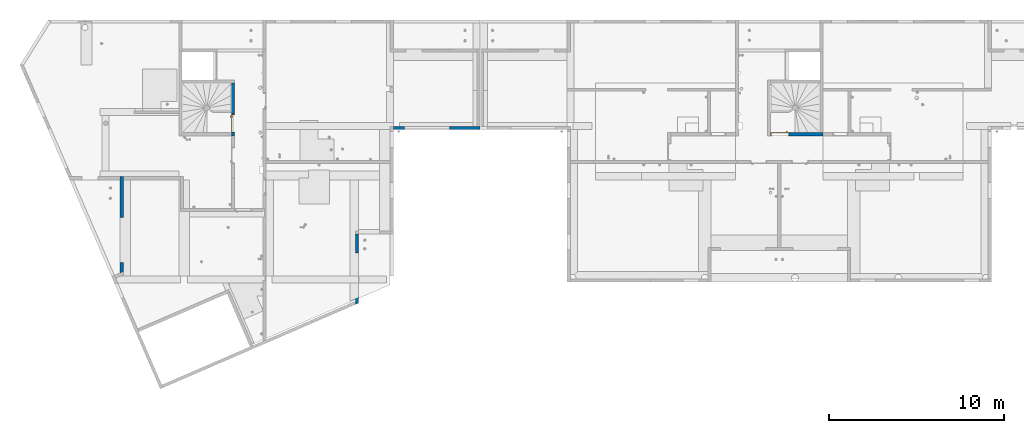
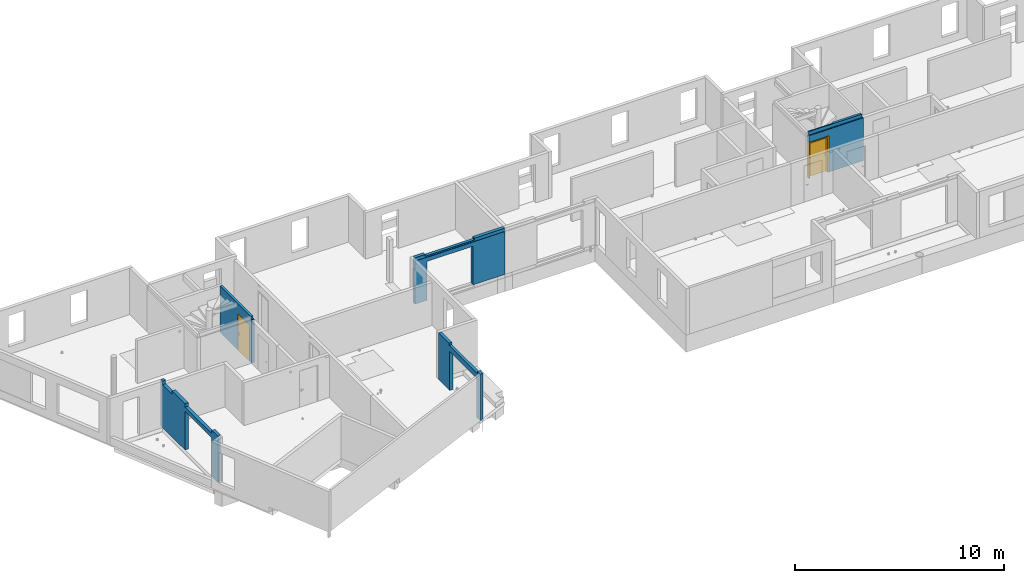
# One storey, part 25 of 34: 5 walls, 2 doors, 2 openings.
"""IFC2X3 building model written with IfcOpenShell, lengths in centimetres."""

from ifc_helpers import new_model, entity, si_unit, converted_unit, derived_unit, direction, frame, frame_2d, origin, place, context, subcontext, project, spatial, rectangle, extrude, faceted_brep, source, transform, mapped, material, material_list, layer, layer_set, type_object, type_shapes, element, fill, save


model = new_model("IFC2X3")

# Units and contexts
model_context = context("Model", 3, precision=0.001, world=origin(), true_north=direction((6.12303176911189e-17, 1.0)))
body_context = subcontext(model_context, "Body", "Model", "MODEL_VIEW")
ifc_project = project(units=[si_unit("LENGTHUNIT", "METRE", prefix="CENTI"), si_unit("AREAUNIT", "SQUARE_METRE"), si_unit("VOLUMEUNIT", "CUBIC_METRE"), converted_unit("PLANEANGLEUNIT", "DEGREE", entity("IfcRatioMeasure", 0.0174532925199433), si_unit("PLANEANGLEUNIT", "RADIAN"), dimensions=[0, 0, 0, 0, 0, 0, 0]), si_unit("MASSUNIT", "GRAM", prefix="KILO"), derived_unit("MASSDENSITYUNIT", [(si_unit("MASSUNIT", "GRAM", prefix="KILO"), 1), (si_unit("LENGTHUNIT", "METRE"), -3)]), si_unit("TIMEUNIT", "SECOND"), si_unit("FREQUENCYUNIT", "HERTZ"), si_unit("THERMODYNAMICTEMPERATUREUNIT", "DEGREE_CELSIUS"), derived_unit("THERMALTRANSMITTANCEUNIT", [(si_unit("MASSUNIT", "GRAM", prefix="KILO"), 1), (si_unit("THERMODYNAMICTEMPERATUREUNIT", "KELVIN"), -1), (si_unit("TIMEUNIT", "SECOND"), -3)]), derived_unit("VOLUMETRICFLOWRATEUNIT", [(si_unit("LENGTHUNIT", "METRE"), 3), (si_unit("TIMEUNIT", "SECOND"), -1)]), si_unit("ELECTRICCURRENTUNIT", "AMPERE"), si_unit("ELECTRICVOLTAGEUNIT", "VOLT"), si_unit("POWERUNIT", "WATT"), si_unit("FORCEUNIT", "NEWTON"), si_unit("ILLUMINANCEUNIT", "LUX"), si_unit("LUMINOUSFLUXUNIT", "LUMEN"), si_unit("LUMINOUSINTENSITYUNIT", "CANDELA"), derived_unit("USERDEFINED", [(si_unit("MASSUNIT", "GRAM", prefix="KILO"), -1), (si_unit("LENGTHUNIT", "METRE"), -2), (si_unit("TIMEUNIT", "SECOND"), 3), (si_unit("LUMINOUSFLUXUNIT", "LUMEN"), 1)]), derived_unit("LINEARVELOCITYUNIT", [(si_unit("LENGTHUNIT", "METRE"), 1), (si_unit("TIMEUNIT", "SECOND"), -1)]), si_unit("PRESSUREUNIT", "PASCAL"), derived_unit("USERDEFINED", [(si_unit("LENGTHUNIT", "METRE"), -2), (si_unit("MASSUNIT", "GRAM", prefix="KILO"), 1), (si_unit("TIMEUNIT", "SECOND"), -2)])], contexts=[model_context])

# Site, building, storey
site_placement = place(None, origin())
site = spatial("IfcSite", under=ifc_project, at=site_placement, Name="Default", CompositionType="ELEMENT")
building_placement = place(site_placement, origin())
building = spatial("IfcBuilding", under=site, at=building_placement, Name="CAGE 03", CompositionType="ELEMENT")
storey_placement = place(building_placement, frame((0.0, 0.0, 340.0)))
storey = spatial("IfcBuildingStorey", under=building, at=storey_placement, Name="R+1", CompositionType="ELEMENT", Elevation=340.0)

# Walls
ifc_material_1 = material(Name="Béton, C25/30")
ifc_layer = layer(ifc_material_1, 18.0)
ifc_layer_set = layer_set([ifc_layer], Name="Mur de base:Voile BA 18")
wall_type_1 = type_object("IfcWallType", Name="Mur de base:Voile BA 18", PredefinedType="STANDARD", material=ifc_layer_set)
wall_1_placement = place(storey_placement, frame((3327.86582014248, 3849.93428297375, 0.0), z_axis=(0.0, 0.0, 1.0), x_axis=(0.0, 1.0, 0.0)))
element("IfcWall", 1, at=wall_1_placement, inside=storey, type_object=wall_type_1, Name="Mur de base:Voile BA 18", ObjectType="Mur de base:Voile BA 18", context=body_context, shape_type="Brep", body=[
    faceted_brep([(549.72638310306, -9.0, 0.0), (549.72638310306, -9.0, 250.0), (549.72638310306, -9.0, 270.0), (531.726383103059, -9.0, 270.0), (531.726383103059, -9.0, 250.0), (440.726383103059, -9.0, 250.0), (440.726383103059, -9.0, 270.0), (315.72638310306, -9.0, 270.0), (315.72638310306, -9.0, 250.0), (60.7263831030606, -9.0, 250.0), (60.7263831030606, -9.0, 270.0), (7.78832528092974, -9.0, 270.0), (7.78832528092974, -9.0, 250.0), (7.78832528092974, -9.0, 0.0), (60.7263831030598, -9.0, 0.0), (60.7263831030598, -9.0, 226.0), (315.72638310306, -9.0, 226.0), (315.72638310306, -9.0, 0.0), (531.72638310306, -9.0, 0.0), (549.72638310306, 9.0, 270.0), (549.72638310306, 9.0, 250.0), (549.72638310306, 9.0, 0.0), (531.72638310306, 9.0, 0.0), (315.726383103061, 9.0, 0.0), (315.72638310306, 9.0, 226.0), (60.7263831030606, 9.0, 226.0), (60.7263831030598, 9.0, 0.0), (0.0, 9.0, 0.0), (0.0, 9.0, 250.0), (0.0, 9.0, 269.609958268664), (0.0, 9.0, 270.0), (60.7263831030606, 9.0, 270.0), (60.7263831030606, 9.0, 269.609958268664), (60.7263831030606, 9.0, 265.0), (60.7263831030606, 9.0, 250.0), (315.72638310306, 9.0, 250.0), (315.72638310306, 9.0, 265.0), (315.72638310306, 9.0, 269.609958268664), (315.72638310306, 9.0, 270.0), (440.726383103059, 9.0, 270.0), (440.726383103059, 9.0, 269.609958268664), (440.726383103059, 9.0, 265.0), (440.726383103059, 9.0, 250.0), (531.726383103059, 9.0, 250.0), (531.726383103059, 9.0, 270.0)], [[[0, 1, 2, 3, 4, 5, 6, 7, 8, 9, 10, 11, 12, 13, 14, 15, 16, 17, 18]], [[19, 20, 21, 22, 23, 24, 25, 26, 27, 28, 29, 30, 31, 32, 33, 34, 35, 36, 37, 38, 39, 40, 41, 42, 43, 44]], [[13, 27, 26, 14]], [[2, 19, 44, 3]], [[11, 30, 29, 28, 27, 13, 12]], [[0, 21, 20, 19, 2, 1]], [[25, 15, 14, 26]], [[15, 25, 24, 16]], [[16, 24, 23, 17]], [[7, 38, 37, 36, 35, 8]], [[9, 34, 33, 32, 31, 10]], [[43, 4, 3, 44]], [[39, 6, 5, 42, 41, 40]], [[42, 5, 4, 43]], [[34, 9, 8, 35]], [[38, 7, 6, 39]], [[30, 11, 10, 31]], [[21, 0, 18, 17, 23, 22]]]),
])
wall_2_placement = place(storey_placement, frame((4671.36582014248, 3669.61970228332, 0.0), z_axis=(0.0, 0.0, 1.0), x_axis=(0.0, 1.0, 0.0)))
element("IfcWall", 2, at=wall_2_placement, inside=storey, type_object=wall_type_1, Name="Mur de base:Voile BA 18", ObjectType="Mur de base:Voile BA 18", context=body_context, shape_type="Brep", body=[
    faceted_brep([(30.5409637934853, -9.0, 269.589956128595), (30.5409637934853, -9.0, 270.0), (27.4195266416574, -9.0, 270.0), (27.4586157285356, -9.0, 269.589956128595), (38.5409637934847, 9.0, 0.0), (19.6127002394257, 9.0, 0.0), (0.0, 9.0, 0.0), (0.0, 9.0, 270.0), (13.6199307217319, 9.0, 270.0), (19.6127002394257, 9.0, 270.0), (30.5409637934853, 9.0, 270.0), (30.5409637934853, 9.0, 258.0), (301.540963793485, 9.0, 258.0), (301.540963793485, 9.0, 270.0), (402.540963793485, 9.0, 270.0), (402.540963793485, 9.0, 250.0), (402.540963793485, 9.0, 0.0), (293.540963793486, 9.0, 0.0), (293.540963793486, 9.0, 226.0), (38.5409637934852, 9.0, 226.0), (38.5409637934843, -9.0, 0.0), (34.4833894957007, -9.0, 0.0), (7.78832528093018, -9.0, 0.0), (402.540963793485, -9.0, 270.0), (301.540963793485, -7.0, 270.0), (301.540963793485, -9.0, 270.0), (402.540963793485, -9.0, 0.0), (38.5409637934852, -9.0, 226.0), (293.540963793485, -9.0, 226.0), (293.540963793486, -9.0, 0.0), (7.78832528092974, -9.0, 270.0), (30.5409637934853, -7.0, 270.0), (30.5409637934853, -7.0, 269.609958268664), (30.5409637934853, -7.0, 258.0), (301.540963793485, -7.0, 258.0), (301.540963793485, -7.0, 269.609958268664), (301.540963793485, -9.0, 269.589956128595), (10.2098113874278, -7.0, 250.0), (6.94096379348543, -7.0, 250.0), (7.80644107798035, -9.0, 250.0), (11.0752886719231, -9.0, 250.0), (401.540963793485, -7.0, 269.609958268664), (401.540963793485, -7.0, 250.0), (401.540963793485, -9.0, 250.0), (401.540963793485, -9.0, 269.589956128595), (26.5540493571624, -7.0, 270.0), (26.5912316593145, -7.0, 269.609958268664), (11.2994272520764, -7.0, 250.0), (397.540963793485, -7.0, 250.0), (397.540963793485, -7.0, 251.466307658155), (398.540963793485, -7.0, 251.0), (398.540963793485, -7.0, 250.0), (6.94096379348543, -7.0, 270.0), (10.2098113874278, -7.0, 251.0), (11.2994272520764, -7.0, 251.466307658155), (11.0752886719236, -9.0, 251.0), (12.1649045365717, -9.0, 251.466307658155), (12.1649045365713, -9.0, 250.0), (7.80644107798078, -9.0, 270.0), (398.540963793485, -9.0, 251.0), (398.540963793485, -9.0, 250.0), (397.540963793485, -9.0, 250.0), (397.540963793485, -9.0, 251.466307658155)], [[[0, 1, 2, 3]], [[4, 5, 6, 7, 8, 9, 10, 11, 12, 13, 14, 15, 16, 17, 18, 19]], [[20, 21, 22, 6, 5, 4]], [[23, 14, 13, 24, 25]], [[23, 26, 16, 15, 14]], [[19, 27, 20, 4]], [[27, 19, 18, 28]], [[28, 18, 17, 29]], [[22, 30, 7, 6]], [[11, 10, 31, 1, 0, 32, 33]], [[13, 12, 34, 35, 36, 25, 24]], [[12, 11, 33, 34]], [[37, 38, 39, 40]], [[41, 42, 43, 44]], [[45, 46, 3, 2]], [[47, 48, 49, 50, 51, 42, 41, 35, 34, 33, 32, 46, 45, 52, 38, 37, 53, 54]], [[46, 32, 0, 3]], [[53, 37, 40, 55]], [[47, 54, 56, 57]], [[54, 53, 55, 56]], [[38, 52, 58, 39]], [[51, 50, 59, 60]], [[49, 48, 61, 62]], [[50, 49, 62, 59]], [[35, 41, 44, 36]], [[48, 47, 57, 61]], [[42, 51, 60, 43]], [[7, 30, 58, 52, 45, 2, 1, 31, 10, 9, 8]], [[16, 26, 29, 17]], [[26, 23, 25, 36, 44, 43, 60, 59, 62, 61, 57, 56, 55, 40, 39, 58, 30, 22, 21, 20, 27, 28, 29]]]),
])
wall_3_placement = place(storey_placement, frame((4878.36582014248, 4677.66066607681, 0.0)))
element("IfcWall", 3, at=wall_3_placement, inside=storey, type_object=wall_type_1, Name="Mur de base:Voile BA 18", ObjectType="Mur de base:Voile BA 18", context=body_context, shape_type="Brep", body=[
    faceted_brep([(0.0, -9.0, 270.0), (0.0, -9.0, 0.0), (35.0, -9.0, 0.0), (65.0, -9.0, 0.0), (65.0, -9.0, 226.0), (320.0, -9.0, 226.0), (320.0, -9.0, 0.0), (455.0, -9.0, 0.0), (495.0, -9.0, 0.0), (495.0, -9.0, 250.0), (492.0, -9.0, 250.0), (492.0, -9.0, 251.0), (491.0, -9.0, 251.466307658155), (491.0, -9.0, 250.0), (5.0, -9.0, 250.0), (5.0, -9.0, 251.466307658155), (4.0, -9.0, 251.0), (4.0, -9.0, 250.0), (1.0, -9.0, 250.0), (1.0, -9.0, 269.589956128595), (65.0, -9.0, 269.589956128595), (65.0, -9.0, 270.0), (495.0, 9.0, 270.0), (495.0, 9.0, 0.0), (477.0, 9.0, 0.0), (455.0, 9.0, 0.0), (328.0, 9.0, 0.0), (320.0, 9.0, 0.0), (320.0, 9.0, 226.0), (65.0, 9.0, 226.0), (65.0, 9.0, 0.0), (57.0, 9.0, 0.0), (35.0, 9.0, 0.0), (0.0, 9.0, 0.0), (0.0, 9.0, 250.0), (0.0, 9.0, 270.0), (57.0, 9.0, 270.0), (57.0, 9.0, 258.0), (328.0, 9.0, 258.0), (328.0, 9.0, 270.0), (477.0, 9.0, 270.0), (65.0, -7.0, 0.0), (495.0, -9.0, 270.0), (328.0, -7.0, 270.0), (320.0, -7.0, 270.0), (320.0, -9.0, 270.0), (495.0, -9.0, 269.589956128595), (495.0, -7.0, 269.609958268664), (495.0, -7.0, 250.0), (320.0, -7.0, 0.0), (4.0, -7.0, 250.0), (1.0, -7.0, 250.0), (57.0, -7.0, 269.609958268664), (65.0, -7.0, 269.609958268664), (1.0, -7.0, 269.609958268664), (65.0, -7.0, 270.0), (320.0, -9.0, 269.589956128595), (320.0, -7.0, 269.609958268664), (57.0, -7.0, 258.0), (328.0, -7.0, 258.0), (5.0, -7.0, 250.0), (491.0, -7.0, 250.0), (491.0, -7.0, 251.466307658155), (492.0, -7.0, 251.0), (492.0, -7.0, 250.0), (328.0, -7.0, 269.609958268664), (4.0, -7.0, 251.0), (5.0, -7.0, 251.466307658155), (57.0, -7.0, 270.0)], [[[0, 1, 2, 3, 4, 5, 6, 7, 8, 9, 10, 11, 12, 13, 14, 15, 16, 17, 18, 19, 20, 21]], [[22, 23, 24, 25, 26, 27, 28, 29, 30, 31, 32, 33, 34, 35, 36, 37, 38, 39, 40]], [[1, 33, 32, 31, 30, 41, 3, 2]], [[42, 22, 40, 39, 43, 44, 45]], [[1, 0, 35, 34, 33]], [[8, 23, 22, 42, 46, 47, 48, 9]], [[5, 28, 27, 49, 6]], [[28, 5, 4, 29]], [[29, 4, 3, 41, 30]], [[50, 51, 18, 17]], [[52, 53, 20, 19, 54]], [[21, 20, 53, 55]], [[56, 45, 44, 57]], [[37, 58, 59, 38]], [[60, 61, 62, 63, 64, 48, 47, 65, 59, 58, 52, 54, 51, 50, 66, 67]], [[51, 54, 19, 18]], [[65, 57, 44, 43]], [[53, 52, 68, 55]], [[52, 58, 37, 36, 68]], [[64, 63, 11, 10]], [[62, 61, 13, 12]], [[63, 62, 12, 11]], [[66, 50, 17, 16]], [[60, 67, 15, 14]], [[67, 66, 16, 15]], [[59, 65, 43, 39, 38]], [[65, 47, 46, 56, 57]], [[61, 60, 14, 13]], [[48, 64, 10, 9]], [[35, 0, 21, 55, 68, 36]], [[23, 8, 7, 6, 49, 27, 26, 25, 24]], [[42, 45, 56, 46]]]),
])

# Wall, opening, door
ifc_material_2 = material(Name="Béton, panneaux préfa 30/37")
ifc_material_list_1 = material_list([ifc_material_2, ifc_material_1, ifc_material_2])
wall_type_2 = type_object("IfcWallType", Name="Mur de base:premur 18", PredefinedType="NOTDEFINED")
wall_4_placement = place(storey_placement, frame((3963.36582014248, 4932.66066607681, 0.0), z_axis=(0.0, 0.0, 1.0), x_axis=(0.0, -1.0, 0.0)))
wall_4 = element("IfcWall", 4, at=wall_4_placement, inside=storey, type_object=wall_type_2, material=ifc_material_list_1, Name="Mur de base:premur 18", ObjectType="Mur de base:premur 18", context=body_context, shape_type="Brep", body=[
    faceted_brep([(0.0, -9.0, 270.0), (0.0, -9.0, 0.0), (175.0, -9.0, 0.0), (175.0, -9.0, 210.0), (282.0, -9.0, 210.0), (282.0, -9.0, 0.0), (294.500000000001, -9.0, 0.0), (300.0, -9.0, 0.0), (300.0, -9.0, 237.5), (300.0, -9.0, 247.5), (300.0, -9.0, 250.0), (294.5, -9.0, 250.0), (294.5, -9.0, 270.0), (287.5, -9.0, 270.0), (282.0, -9.0, 270.0), (175.0, -9.0, 270.0), (300.0, 9.0, 0.0), (282.0, 9.0, 0.0), (282.0, 9.0, 210.0), (175.0, 9.0, 210.0), (175.0, 9.0, 0.0), (0.0, 9.0, 0.0), (0.0, 9.0, 250.0), (300.0, 9.0, 250.0), (300.0, 9.0, 247.5), (300.0, 9.0, 237.5), (0.0, 3.5000000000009, 0.0), (294.5, 3.5000000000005, 270.0), (0.0, 3.50000000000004, 270.0), (0.0, 3.50000000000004, 250.0), (294.5, 3.5000000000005, 250.0)], [[[0, 1, 2, 3, 4, 5, 6, 7, 8, 9, 10, 11, 12, 13, 14, 15]], [[16, 17, 18, 19, 20, 21, 22, 23, 24, 25]], [[1, 26, 21, 20, 2]], [[0, 15, 14, 13, 12, 27, 28]], [[1, 0, 28, 29, 22, 21, 26]], [[7, 16, 25, 24, 23, 10, 9, 8]], [[5, 4, 18, 17]], [[4, 3, 19, 18]], [[3, 2, 20, 19]], [[29, 30, 11, 10, 23, 22]], [[30, 27, 12, 11]], [[27, 30, 29, 28]], [[16, 7, 6, 5, 17]]]),
])
opening_1_placement = place(wall_4_placement, frame((282.0, 9.0, 0.0)))
opening_1 = element("IfcOpeningElement", 5, at=opening_1_placement, cuts=wall_4, Name="Int. Simple:HB103:1", ObjectType="Opening", context=body_context, shape_type="SweptSolid", body=[
    extrude(rectangle(XDim=210.000000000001, YDim=107.0, at=frame_2d((105.000000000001, 53.5000000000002), x_axis=(1.0, 0.0))), frame((0.0, 0.0, 0.0), z_axis=(0.0, -1.0, 0.0), x_axis=(0.0, 0.0, 1.0)), (0.0, 0.0, 1.0), 18.0),
])
ifc_material_3 = material(Name="Finition Peinture - Blanc satiné")
ifc_material_4 = material(Name="Bois - Panneau de porte")
ifc_material_5 = material(Name="Bois - Cadre de porte")
ifc_material_list_2 = material_list([ifc_material_3, ifc_material_4, ifc_material_5])
ifc_material_list_3 = material_list([ifc_material_3, ifc_material_4, ifc_material_5])
door_style = type_object("IfcDoorStyle", Name="HB103", ConstructionType="NOTDEFINED", OperationType="SINGLE_SWING_LEFT", ParameterTakesPrecedence=False, Sizeable=False, material=ifc_material_list_3)
shared_shape = source(origin(), body_context, "Body", "Brep", [
    faceted_brep([(10.5352761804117, -0.500000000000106, 86.6003983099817), (11.5000000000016, -0.500000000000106, 87.0), (11.5000000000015, -0.500000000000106, 108.0), (10.5352761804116, -0.500000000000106, 108.399601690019), (9.50000000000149, -0.500000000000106, 108.535898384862), (8.46472381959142, -0.500000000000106, 108.399601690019), (7.50000000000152, -0.500000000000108, 108.0), (7.50000000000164, -0.500000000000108, 87.0), (8.46472381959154, -0.500000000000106, 86.6003983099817), (9.5000000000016, -0.500000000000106, 86.464101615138), (10.5352761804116, 0.0, 108.399601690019), (11.5000000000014, 0.0, 108.0), (11.5000000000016, 0.0, 87.0), (10.5352761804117, 0.0, 86.6003983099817), (9.5000000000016, 0.0, 86.464101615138), (8.46472381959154, 0.0, 86.6003983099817), (7.50000000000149, 0.0, 87.0), (7.50000000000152, 0.0, 108.0), (8.46472381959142, 0.0, 108.399601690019), (9.50000000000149, 0.0, 108.535898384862)], [[[0, 1, 2, 3, 4, 5, 6, 7, 8, 9]], [[10, 11, 12, 13, 14, 15, 16, 17, 18, 19]], [[16, 15, 8, 7]], [[8, 15, 14, 9]], [[14, 13, 0, 9]], [[13, 12, 1, 0]], [[2, 1, 12, 11]], [[11, 10, 3, 2]], [[3, 10, 19, 4]], [[19, 18, 5, 4]], [[18, 17, 6, 5]], [[7, 6, 17, 16]]]),
    faceted_brep([(10.5352761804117, 3.0, 86.6003983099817), (11.5000000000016, 3.0, 87.0), (11.5000000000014, 3.0, 108.0), (10.5352761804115, 3.0, 108.399601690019), (9.50000000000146, 3.0, 108.535898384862), (8.4647238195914, 3.0, 108.399601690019), (7.50000000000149, 3.0, 108.0), (7.50000000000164, 3.0, 87.0), (8.46472381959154, 3.0, 86.6003983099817), (9.50000000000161, 3.0, 86.464101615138), (10.5352761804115, 3.49999999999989, 108.399601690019), (11.5000000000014, 3.49999999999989, 108.0), (11.5000000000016, 3.49999999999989, 87.0), (10.5352761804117, 3.49999999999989, 86.6003983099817), (9.50000000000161, 3.49999999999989, 86.464101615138), (8.46472381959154, 3.49999999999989, 86.6003983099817), (7.50000000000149, 3.49999999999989, 87.0), (7.50000000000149, 3.49999999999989, 108.0), (8.4647238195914, 3.49999999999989, 108.399601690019), (9.50000000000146, 3.49999999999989, 108.535898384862)], [[[0, 1, 2, 3, 4, 5, 6, 7, 8, 9]], [[10, 11, 12, 13, 14, 15, 16, 17, 18, 19]], [[11, 10, 3, 2]], [[3, 10, 19, 4]], [[19, 18, 5, 4]], [[18, 17, 6, 5]], [[7, 6, 17, 16]], [[16, 15, 8, 7]], [[8, 15, 14, 9]], [[14, 13, 0, 9]], [[13, 12, 1, 0]], [[2, 1, 12, 11]]]),
    faceted_brep([(9.29747013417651, -0.500000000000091, 100.778044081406), (9.70252986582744, -0.500000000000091, 100.778044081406), (10.1000000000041, -0.500000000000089, 100.699999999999), (10.1000000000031, -0.500000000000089, 99.3000000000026), (9.7025298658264, -0.500000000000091, 99.2219559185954), (9.29747013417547, -0.500000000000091, 99.2219559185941), (8.89999999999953, -0.500000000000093, 99.2999999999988), (8.89999999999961, -0.500000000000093, 100.7), (8.8999999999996, -3.26509507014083, 100.7), (9.29747013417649, -3.1004575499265, 100.778044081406), (10.9023585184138, -4.70534593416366, 100.778044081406), (11.0701397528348, -4.30028620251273, 100.778044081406), (9.70252986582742, -2.93267631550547, 100.778044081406), (10.1000000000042, -2.76803879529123, 100.7), (10.1000000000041, -2.76803879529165, 99.3000000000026), (9.7025298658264, -2.93267631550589, 99.2219559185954), (11.0701397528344, -4.30028620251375, 99.2219559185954), (10.9023585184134, -4.70534593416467, 99.2219559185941), (9.29747013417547, -3.10045754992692, 99.2219559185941), (8.89999999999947, -3.26509507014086, 99.2999999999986), (10.7377209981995, -5.10281606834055, 100.7), (11.2347772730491, -3.90281606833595, 100.7), (11.2347772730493, -3.90281606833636, 99.3000000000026), (10.7377209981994, -5.10281606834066, 99.2999999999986), (19.5018640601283, -5.10281606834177, 99.2999999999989), (19.5018640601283, -4.70534593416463, 99.2219559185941), (19.5018640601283, -4.30028620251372, 99.2219559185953), (19.5018640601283, -3.90281606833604, 99.3000000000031), (19.5018640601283, -3.90281606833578, 100.7), (19.5018640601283, -4.30028620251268, 100.778044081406), (19.5018640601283, -4.7053459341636, 100.778044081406), (19.5018640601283, -5.10281606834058, 100.699999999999), (14.7307697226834, -5.10281606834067, 100.7), (15.2860019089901, -4.50281606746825, 100.78786867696), (15.3683206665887, -3.90281606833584, 100.7), (15.3683206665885, -3.90281606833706, 99.3000000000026), (15.2860018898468, -4.50281607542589, 99.2121313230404), (14.7307703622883, -5.10281606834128, 99.2999999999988)], [[[0, 1, 2, 3, 4, 5, 6, 7]], [[8, 9, 0, 7]], [[9, 10, 11, 12, 1, 0]], [[12, 13, 2, 1]], [[3, 2, 13, 14]], [[14, 15, 4, 3]], [[15, 16, 17, 18, 5, 4]], [[18, 19, 6, 5]], [[7, 6, 19, 8]], [[20, 10, 9, 8]], [[11, 21, 13, 12]], [[14, 13, 21, 22]], [[22, 16, 15, 14]], [[17, 23, 19, 18]], [[8, 19, 23, 20]], [[24, 25, 26, 27, 28, 29, 30, 31]], [[32, 30, 33]], [[31, 30, 32]], [[10, 20, 32]], [[33, 34, 11]], [[21, 11, 34]], [[34, 29, 28]], [[30, 29, 33]], [[29, 34, 33]], [[10, 32, 33]], [[10, 33, 11]], [[22, 21, 34, 28, 27, 35]], [[35, 26, 36]], [[37, 36, 25]], [[22, 35, 16]], [[35, 27, 26]], [[24, 37, 25]], [[23, 17, 37]], [[37, 17, 36]], [[17, 16, 36]], [[16, 35, 36]], [[25, 36, 26]], [[20, 23, 37, 24, 31, 32]]]),
    faceted_brep([(9.29747013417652, 3.49999999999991, 100.778044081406), (8.89999999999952, 3.4999999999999, 100.7), (8.89999999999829, 3.4999999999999, 99.299999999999), (9.29747013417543, 3.49999999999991, 99.2219559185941), (9.70252986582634, 3.49999999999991, 99.2219559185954), (10.1000000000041, 3.49999999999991, 99.3000000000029), (10.1000000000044, 3.49999999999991, 100.7), (9.70252986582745, 3.49999999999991, 100.778044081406), (10.1000000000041, 5.74852045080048, 99.3000000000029), (10.1000000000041, 5.74852045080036, 100.7), (9.70252986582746, 5.91315797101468, 100.778044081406), (11.0838906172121, 7.29451872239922, 100.778044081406), (10.9161093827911, 7.69957845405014, 100.778044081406), (9.29747013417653, 6.08093920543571, 100.778044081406), (8.89999999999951, 6.2455767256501, 100.7), (8.8999999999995, 6.24557672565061, 99.299999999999), (9.29747013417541, 6.08093920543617, 99.2219559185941), (10.9161093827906, 7.69957845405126, 99.2219559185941), (11.0838906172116, 7.29451872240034, 99.2219559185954), (9.70252986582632, 5.91315797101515, 99.2219559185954), (11.2485281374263, 6.89704858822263, 99.3000000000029), (11.2485281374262, 6.89704858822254, 100.7), (10.7514718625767, 8.09704858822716, 100.7), (10.7514718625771, 8.09704858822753, 99.299999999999), (19.5045783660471, 6.8970485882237, 99.3000000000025), (19.5045783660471, 7.29451872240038, 99.2219559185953), (19.5045783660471, 7.6995784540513, 99.2219559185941), (19.5045783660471, 8.09704858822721, 99.2999999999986), (19.5045783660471, 8.0970485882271, 100.7), (19.5045783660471, 7.6995784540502, 100.778044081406), (19.5045783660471, 7.29451872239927, 100.778044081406), (19.5045783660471, 6.89704858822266, 100.7), (15.3765532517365, 6.89704858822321, 99.3000000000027), (15.3765532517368, 6.89704858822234, 100.7), (15.2942344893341, 7.4970485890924, 100.78786867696), (14.7445205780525, 8.09704858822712, 100.7), (14.7445205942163, 8.09704858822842, 99.299999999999), (15.2942345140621, 7.49704858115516, 99.2121313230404)], [[[0, 1, 2, 3, 4, 5, 6, 7]], [[6, 5, 8, 9]], [[9, 10, 7, 6]], [[10, 11, 12, 13, 0, 7]], [[13, 14, 1, 0]], [[2, 1, 14, 15]], [[15, 16, 3, 2]], [[16, 17, 18, 19, 4, 3]], [[19, 8, 5, 4]], [[9, 8, 20, 21]], [[21, 11, 10, 9]], [[12, 22, 14, 13]], [[15, 14, 22, 23]], [[23, 17, 16, 15]], [[18, 20, 8, 19]], [[24, 25, 26, 27, 28, 29, 30, 31]], [[21, 20, 32, 24, 31, 33]], [[33, 30, 34]], [[35, 34, 29]], [[21, 33, 11]], [[33, 31, 30]], [[28, 35, 29]], [[22, 12, 35]], [[35, 12, 34]], [[12, 11, 34]], [[11, 33, 34]], [[29, 34, 30]], [[22, 35, 28, 27, 36, 23]], [[36, 26, 37]], [[27, 26, 36]], [[17, 23, 36]], [[37, 32, 18]], [[20, 18, 32]], [[32, 25, 24]], [[26, 25, 37]], [[25, 32, 37]], [[17, 36, 37]], [[17, 37, 18]]]),
    faceted_brep([(3.5000000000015, 3.0, 206.5), (103.500000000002, 3.0, 206.5), (103.500000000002, 3.0, 0.0), (3.5000000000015, 3.0, 0.0), (3.5000000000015, 0.0, 206.5), (3.5000000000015, 0.0, 0.0), (103.500000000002, 0.0, 0.0), (103.500000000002, 0.0, 206.5)], [[[0, 1, 2, 3]], [[4, 5, 6, 7]], [[1, 0, 4, 7]], [[2, 1, 7, 6]], [[3, 2, 6, 5]], [[0, 3, 5, 4]]]),
    faceted_brep([(0.0, 0.0, 0.0), (0.0, 18.0, 0.0), (5.0, 18.0, 0.0), (5.0, 3.0, 0.0), (3.50000000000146, 3.0, 0.0), (3.50000000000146, 0.0, 0.0), (0.0, 0.0, 210.0), (0.0, 18.0, 210.0), (107.0, 18.0, 210.0), (107.0, 18.0, 0.0), (102.0, 18.0, 0.0), (102.0, 18.0, 205.0), (5.0, 18.0, 205.0), (5.0, 3.0, 205.0), (102.0, 3.0, 205.0), (102.0, 3.0, 0.0), (103.499999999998, 3.0, 0.0), (103.499999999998, 3.0, 206.5), (3.50000000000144, 3.0, 206.5), (3.50000000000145, 0.0, 206.5), (103.499999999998, 0.0, 206.5), (103.499999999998, 0.0, 0.0), (107.0, 0.0, 0.0), (107.0, 0.0, 210.0)], [[[0, 1, 2, 3, 4, 5]], [[1, 0, 6, 7]], [[2, 1, 7, 8, 9, 10, 11, 12]], [[3, 2, 12, 13]], [[4, 3, 13, 14, 15, 16, 17, 18]], [[5, 4, 18, 19]], [[0, 5, 19, 20, 21, 22, 23, 6]], [[8, 23, 22, 9]], [[22, 21, 16, 15, 10, 9]], [[14, 11, 10, 15]], [[20, 17, 16, 21]], [[7, 6, 23, 8]], [[13, 12, 11, 14]], [[19, 18, 17, 20]]]),
    faceted_brep([(1.49999999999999, 18.0, 0.0), (-1.5, 18.0, 0.0), (-1.5, 18.5000000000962, 0.0), (1.49999999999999, 18.5000000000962, 0.0), (1.49999999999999, 18.0, 208.500000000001), (105.5, 18.0, 208.500000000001), (105.5, 18.0, 0.0), (108.5, 18.0, 0.0), (108.5, 18.0, 211.500000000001), (-1.50000000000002, 18.0, 211.500000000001), (-1.5, 18.5000000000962, 211.500000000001), (108.5, 18.5000000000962, 211.500000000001), (108.5, 18.5000000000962, 0.0), (105.5, 18.5000000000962, 0.0), (105.5, 18.5000000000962, 208.500000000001), (1.49999999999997, 18.5000000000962, 208.500000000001)], [[[0, 1, 2, 3]], [[1, 0, 4, 5, 6, 7, 8, 9]], [[2, 1, 9, 10]], [[3, 2, 10, 11, 12, 13, 14, 15]], [[0, 3, 15, 4]], [[6, 13, 12, 7]], [[5, 14, 13, 6]], [[11, 8, 7, 12]], [[10, 9, 8, 11]], [[4, 15, 14, 5]]]),
    faceted_brep([(-1.5, -0.5, 0.0), (1.49999999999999, -0.5, 0.0), (1.49999999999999, -0.5, 208.500000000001), (105.5, -0.5, 208.500000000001), (105.5, -0.5, 0.0), (108.5, -0.5, 0.0), (108.5, -0.5, 211.500000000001), (-1.50000000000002, -0.5, 211.500000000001), (-1.5, 0.0, 0.0), (-1.5, 0.0, 211.500000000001), (1.49999999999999, 0.0, 0.0), (108.5, 0.0, 211.500000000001), (108.5, 0.0, 0.0), (105.5, 0.0, 0.0), (105.5, 0.0, 208.500000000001), (1.49999999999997, 0.0, 208.500000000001)], [[[0, 1, 2, 3, 4, 5, 6, 7]], [[8, 0, 7, 9]], [[10, 8, 9, 11, 12, 13, 14, 15]], [[1, 10, 15, 2]], [[3, 14, 13, 4]], [[11, 6, 5, 12]], [[9, 7, 6, 11]], [[2, 15, 14, 3]], [[4, 13, 12, 5]], [[1, 0, 8, 10]]]),
])
type_shapes(door_style, [shared_shape])
door_1_placement = place(opening_1_placement, frame((-107.0, -18.0, 0.0)))
door_1 = element("IfcDoor", 6, at=door_1_placement, inside=storey, type_object=door_style, material=ifc_material_list_2, Name="Int. Simple:HB103", ObjectType="HB103", OverallHeight=210.000000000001, OverallWidth=107.0, context=body_context, shape_type="MappedRepresentation", body=[
    mapped(shared_shape, transform((0.0, 0.0, 0.0), scale=1.0)),
])
fill(opening_1, door_1)

wall_5_placement = place(storey_placement, frame((7031.36582014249, 4641.6606660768, 0.0)))
wall_5 = element("IfcWall", 7, at=wall_5_placement, inside=storey, type_object=wall_type_2, Name="Mur de base:premur 18", ObjectType="Mur de base:premur 18", context=body_context, shape_type="Brep", body=[
    faceted_brep([(107.0, -9.0, 0.0), (300.0, -9.0, 0.0), (300.0, -9.0, 250.0), (0.0, -9.0, 250.0), (0.0, -9.0, 210.0), (107.0, -9.0, 210.0), (300.0, 9.0, 0.0), (282.0, 9.0, 0.0), (141.0, 9.0, 0.0), (107.0, 9.0, 0.0), (107.0, 9.0, 210.0), (0.0, 9.0, 210.0), (0.0, 9.0, 250.0), (141.0, 9.0, 250.0), (141.0, 9.0, 270.0), (282.0, 9.0, 270.0), (294.499999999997, 9.0, 270.0), (294.499999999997, 9.0, 250.0), (300.0, 9.0, 250.0), (0.0, -3.50000000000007, 270.0), (294.499999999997, -3.50000000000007, 270.0), (141.0, 3.49999999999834, 270.0), (0.0, 3.50000000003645, 270.0), (0.0, -3.50000000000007, 250.0), (0.0, 3.50000000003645, 250.0), (294.499999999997, -3.50000000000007, 250.0), (141.0, 3.49999999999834, 250.0)], [[[0, 1, 2, 3, 4, 5]], [[6, 7, 8, 9, 10, 11, 12, 13, 14, 15, 16, 17, 18]], [[6, 1, 0, 9, 8, 7]], [[19, 20, 16, 15, 14, 21, 22]], [[11, 4, 3, 23, 19, 22, 24, 12]], [[1, 6, 18, 2]], [[10, 5, 4, 11]], [[5, 10, 9, 0]], [[25, 23, 3, 2, 18, 17]], [[23, 25, 20, 19]], [[26, 13, 12, 24]], [[26, 21, 14, 13]], [[21, 26, 24, 22]], [[20, 25, 17, 16]]]),
])
opening_2_placement = place(wall_5_placement, frame((0.0, -9.0, 0.0)))
opening_2 = element("IfcOpeningElement", 8, at=opening_2_placement, cuts=wall_5, Name="Int. Simple:HB103:1", ObjectType="Opening", context=body_context, shape_type="SweptSolid", body=[
    extrude(rectangle(XDim=210.000000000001, YDim=107.0, at=frame_2d((105.000000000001, 53.4999999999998), x_axis=(1.0, 0.0))), frame((0.0, 0.0, 0.0), z_axis=(0.0, 1.0, 0.0), x_axis=(0.0, 0.0, 1.0)), (0.0, 0.0, 1.0), 18.0),
])
ifc_material_list_4 = material_list([ifc_material_3, ifc_material_4, ifc_material_5])
door_2_placement = place(opening_2_placement, frame((107.0, 18.0, 0.0), z_axis=(0.0, 0.0, 1.0), x_axis=(-1.0, 0.0, 0.0)))
door_2 = element("IfcDoor", 9, at=door_2_placement, inside=storey, type_object=door_style, material=ifc_material_list_4, Name="Int. Simple:HB103", ObjectType="HB103", OverallHeight=210.000000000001, OverallWidth=107.0, context=body_context, shape_type="MappedRepresentation", body=[
    mapped(shared_shape, transform((0.0, 0.0, 0.0), scale=1.0)),
])
fill(opening_2, door_2)

save(model, "model.ifc")
